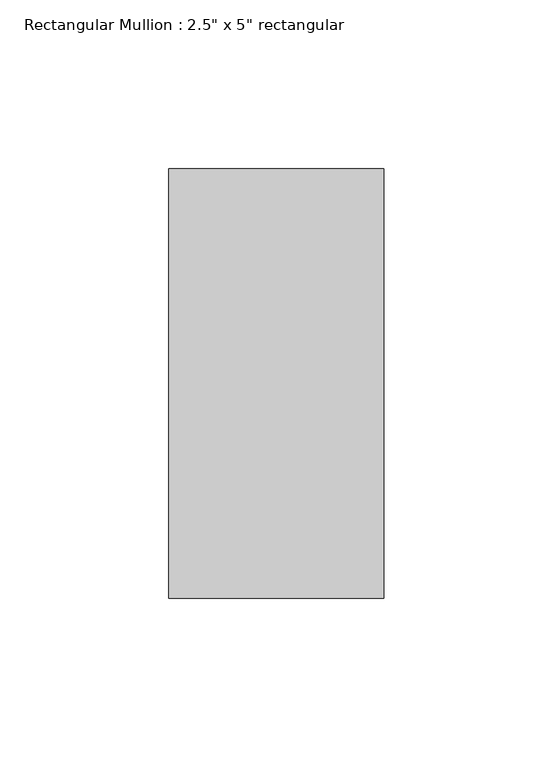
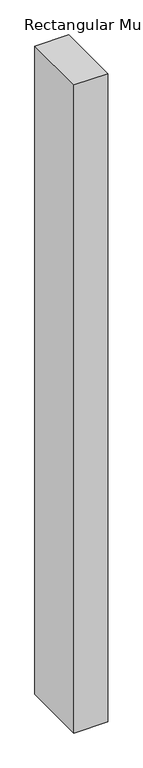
"""IFC4 building model written with IfcOpenShell, lengths in millimetres: member geometry."""

from ifc_helpers import new_model, si_unit, frame, origin, place, context, project, spatial, polyline, outline, extrude, source, transform, mapped, element, save


def member_798c2a08(model_context):
    return source(origin(), model_context, "Body", "SweptSolid", [
        extrude(outline(polyline([(0.0, 63.5), (0.0, -63.5), (-63.5, -63.5), (-63.5, 63.5), (0.0, 63.5)])), frame((0.0, 0.0, -1289.05), z_axis=(0.0, 0.0, 1.0), x_axis=(1.0, 0.0, 0.0)), (0.0, 0.0, 1.0), 1289.05),
    ])


if __name__ == "__main__":
    model = new_model("IFC4")
    model_context = context("Model", 3, world=origin())
    ifc_project = project(units=[si_unit("LENGTHUNIT", "METRE", prefix="MILLI")], contexts=[model_context])
    site = spatial("IfcSite", under=ifc_project)
    building = spatial("IfcBuilding", under=site)
    placement = place(None, origin())
    member_shape = member_798c2a08(model_context)
    element("IfcMember", 1, ObjectType="Rectangular Mullion : 2.5\" x 5\" rectangular", at=placement, inside=building, context=model_context, shape_type="MappedRepresentation", body=[
        mapped(member_shape, transform((0.0, 0.0, 0.0), x_axis=(1.0, 0.0, 0.0), y_axis=(0.0, 1.0, 0.0), z_axis=(0.0, 0.0, 1.0))),
    ])
    save(model, "model.ifc")
